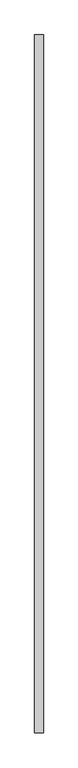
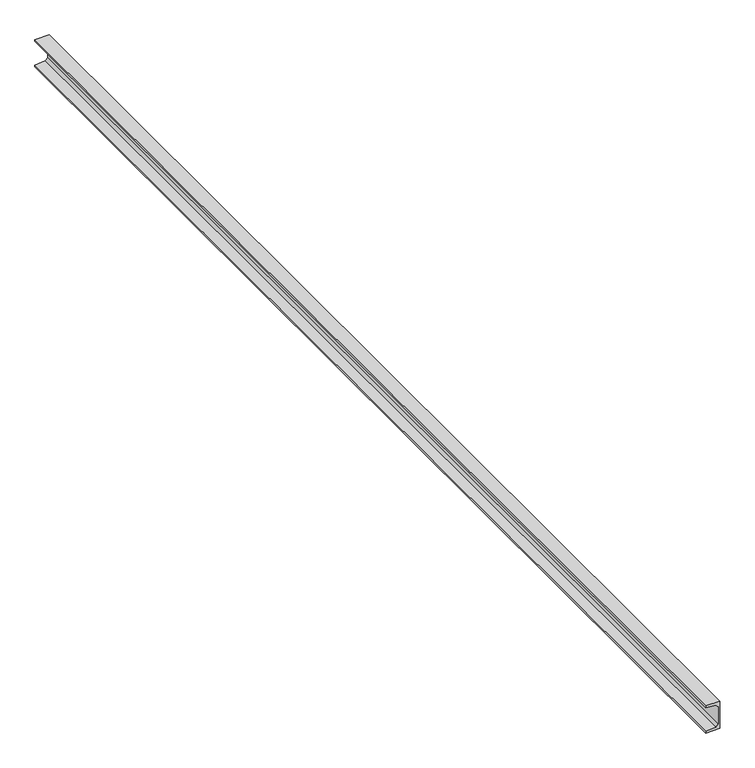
"""IFC4 building model written with IfcOpenShell, lengths in millimetres: beam geometry, Murailli?re 180174 : Murailli?re 180174."""

from ifc_helpers import new_model, si_unit, frame, origin, place, context, project, spatial, polyline, outline, extrude, source, transform, mapped, element, save


def beam_e98fb987(model_context):
    return source(origin(), model_context, "Body", "SweptSolid", [
        extrude(outline(polyline([(7402.425, 15339.9999999), (7395.925, 15339.9999999), (7395.925, 15389.9999999), (7495.925, 15389.9999999), (7495.925, 15339.9999999), (7489.425, 15339.9999999), (7486.585, 15375.4999999), (7477.405, 15383.9999999), (7414.445, 15383.9999999), (7405.265, 15375.4999999), (7402.425, 15339.9999999)])), frame((0.0, -12730.0, 0.0), z_axis=(0.0, 1.0, 0.0), x_axis=(0.0, 0.0, 1.0)), (0.0, 0.0, 1.0), 4040.0),
    ])


if __name__ == "__main__":
    model = new_model("IFC4")
    model_context = context("Model", 3, world=origin())
    ifc_project = project(units=[si_unit("LENGTHUNIT", "METRE", prefix="MILLI")], contexts=[model_context])
    site = spatial("IfcSite", under=ifc_project)
    building = spatial("IfcBuilding", under=site)
    placement = place(None, origin())
    beam_shape = beam_e98fb987(model_context)
    element("IfcBeam", 1, ObjectType="Murailli?re 180174 : Murailli?re 180174", at=placement, inside=building, context=model_context, shape_type="MappedRepresentation", body=[
        mapped(beam_shape, transform((0.0, 0.0, 0.0), x_axis=(1.0, 0.0, 0.0), y_axis=(0.0, 1.0, 0.0), z_axis=(0.0, 0.0, 1.0))),
    ])
    save(model, "model.ifc")
